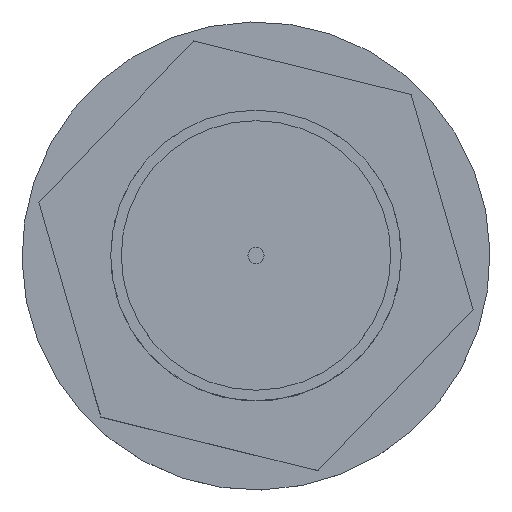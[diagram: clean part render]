
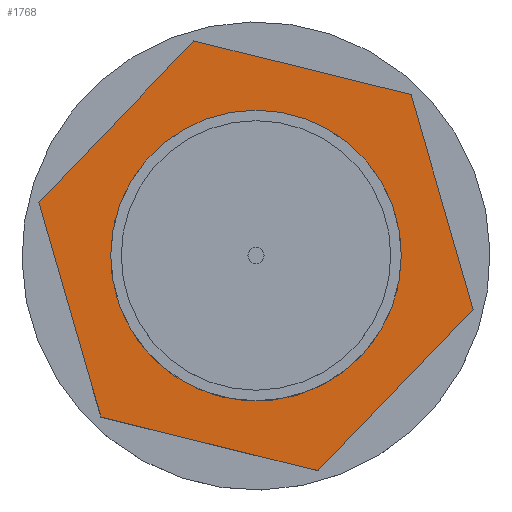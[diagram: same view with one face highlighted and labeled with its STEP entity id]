
A CAD part, top view. The second image highlights one B-rep face of the part: STEP entity #1768.
In plain terms, the highlighted planar face has unit normal (0, 0, 1) as drawn and (1, 0, 0) by its records, which use the part's own axes.
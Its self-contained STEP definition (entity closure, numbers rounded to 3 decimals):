
#41 = LINE ( 'NONE', #1501, #888 ) ;
#50 = DIRECTION ( 'NONE',  ( 0., -0.866, -0.5 ) ) ;
#64 = CARTESIAN_POINT ( 'NONE',  ( 4., 0., 0. ) ) ;
#78 = VERTEX_POINT ( 'NONE', #839 ) ;
#88 = CIRCLE ( 'NONE', #1730, 9. ) ;
#105 = DIRECTION ( 'NONE',  ( 0., 0.866, 0.5 ) ) ;
#116 = CARTESIAN_POINT ( 'NONE',  ( 4., 0., -13.856 ) ) ;
#117 = LINE ( 'NONE', #116, #647 ) ;
#122 = DIRECTION ( 'NONE',  ( 0., 0., -1. ) ) ;
#141 = VECTOR ( 'NONE', #208, 1000. ) ;
#159 = LINE ( 'NONE', #1596, #1395 ) ;
#181 = CARTESIAN_POINT ( 'NONE',  ( 4., 12., 6.928 ) ) ;
#189 = DIRECTION ( 'NONE',  ( 1., 0., 0. ) ) ;
#202 = CARTESIAN_POINT ( 'NONE',  ( 4., 0., 9. ) ) ;
#208 = DIRECTION ( 'NONE',  ( 0., 0., 1. ) ) ;
#209 = CARTESIAN_POINT ( 'NONE',  ( 4., 12., -6.928 ) ) ;
#221 = LINE ( 'NONE', #209, #141 ) ;
#250 = EDGE_CURVE ( 'NONE', #1431, #1563, #611, .T. ) ;
#300 = DIRECTION ( 'NONE',  ( 1., 0., 0. ) ) ;
#352 = CARTESIAN_POINT ( 'NONE',  ( 4., -12., 6.928 ) ) ;
#378 = AXIS2_PLACEMENT_3D ( 'NONE', #64, #1722, #1383 ) ;
#479 = CARTESIAN_POINT ( 'NONE',  ( 4., 0., 0. ) ) ;
#524 = CIRCLE ( 'NONE', #378, 9. ) ;
#597 = CARTESIAN_POINT ( 'NONE',  ( 4., 0., 13.856 ) ) ;
#602 = DIRECTION ( 'NONE',  ( 0., 0., -1. ) ) ;
#603 = CARTESIAN_POINT ( 'NONE',  ( 4., -12., 6.928 ) ) ;
#611 = LINE ( 'NONE', #603, #1143 ) ;
#638 = ORIENTED_EDGE ( 'NONE', *, *, #743, .T. ) ;
#647 = VECTOR ( 'NONE', #105, 1000. ) ;
#667 = PLANE ( 'NONE',  #1349 ) ;
#734 = DIRECTION ( 'NONE',  ( 0., 0., -1. ) ) ;
#743 = EDGE_CURVE ( 'NONE', #1554, #772, #221, .T. ) ;
#772 = VERTEX_POINT ( 'NONE', #181 ) ;
#839 = CARTESIAN_POINT ( 'NONE',  ( 4., 0., -9. ) ) ;
#855 = EDGE_CURVE ( 'NONE', #1659, #1554, #117, .T. ) ;
#888 = VECTOR ( 'NONE', #50, 1000. ) ;
#924 = CARTESIAN_POINT ( 'NONE',  ( 4., 0., 0. ) ) ;
#1051 = EDGE_CURVE ( 'NONE', #78, #1292, #88, .T. ) ;
#1058 = VERTEX_POINT ( 'NONE', #597 ) ;
#1060 = EDGE_CURVE ( 'NONE', #1058, #1431, #41, .T. ) ;
#1091 = EDGE_LOOP ( 'NONE', ( #1305, #1259 ) ) ;
#1099 = EDGE_LOOP ( 'NONE', ( #1219, #1632, #638, #1762, #1510, #1107 ) ) ;
#1107 = ORIENTED_EDGE ( 'NONE', *, *, #250, .T. ) ;
#1130 = CARTESIAN_POINT ( 'NONE',  ( 4., -12., -6.928 ) ) ;
#1143 = VECTOR ( 'NONE', #602, 1000. ) ;
#1202 = FACE_OUTER_BOUND ( 'NONE', #1099, .T. ) ;
#1219 = ORIENTED_EDGE ( 'NONE', *, *, #1327, .T. ) ;
#1259 = ORIENTED_EDGE ( 'NONE', *, *, #1051, .F. ) ;
#1264 = VECTOR ( 'NONE', #1401, 1000. ) ;
#1292 = VERTEX_POINT ( 'NONE', #202 ) ;
#1305 = ORIENTED_EDGE ( 'NONE', *, *, #1610, .F. ) ;
#1327 = EDGE_CURVE ( 'NONE', #1563, #1659, #1789, .T. ) ;
#1349 = AXIS2_PLACEMENT_3D ( 'NONE', #479, #300, #122 ) ;
#1383 = DIRECTION ( 'NONE',  ( 0., 0., -1. ) ) ;
#1395 = VECTOR ( 'NONE', #1402, 1000. ) ;
#1401 = DIRECTION ( 'NONE',  ( 0., 0.866, -0.5 ) ) ;
#1402 = DIRECTION ( 'NONE',  ( 0., -0.866, 0.5 ) ) ;
#1431 = VERTEX_POINT ( 'NONE', #352 ) ;
#1499 = FACE_BOUND ( 'NONE', #1091, .T. ) ;
#1501 = CARTESIAN_POINT ( 'NONE',  ( 4., 0., 13.856 ) ) ;
#1510 = ORIENTED_EDGE ( 'NONE', *, *, #1060, .T. ) ;
#1554 = VERTEX_POINT ( 'NONE', #1569 ) ;
#1563 = VERTEX_POINT ( 'NONE', #1130 ) ;
#1569 = CARTESIAN_POINT ( 'NONE',  ( 4., 12., -6.928 ) ) ;
#1595 = CARTESIAN_POINT ( 'NONE',  ( 4., -12., -6.928 ) ) ;
#1596 = CARTESIAN_POINT ( 'NONE',  ( 4., 12., 6.928 ) ) ;
#1610 = EDGE_CURVE ( 'NONE', #1292, #78, #524, .T. ) ;
#1632 = ORIENTED_EDGE ( 'NONE', *, *, #855, .T. ) ;
#1659 = VERTEX_POINT ( 'NONE', #1689 ) ;
#1689 = CARTESIAN_POINT ( 'NONE',  ( 4., 0., -13.856 ) ) ;
#1722 = DIRECTION ( 'NONE',  ( 1., 0., 0. ) ) ;
#1730 = AXIS2_PLACEMENT_3D ( 'NONE', #924, #189, #734 ) ;
#1746 = EDGE_CURVE ( 'NONE', #772, #1058, #159, .T. ) ;
#1762 = ORIENTED_EDGE ( 'NONE', *, *, #1746, .T. ) ;
#1768 = ADVANCED_FACE ( 'NONE', ( #1202, #1499 ), #667, .T. ) ;
#1789 = LINE ( 'NONE', #1595, #1264 ) ;
